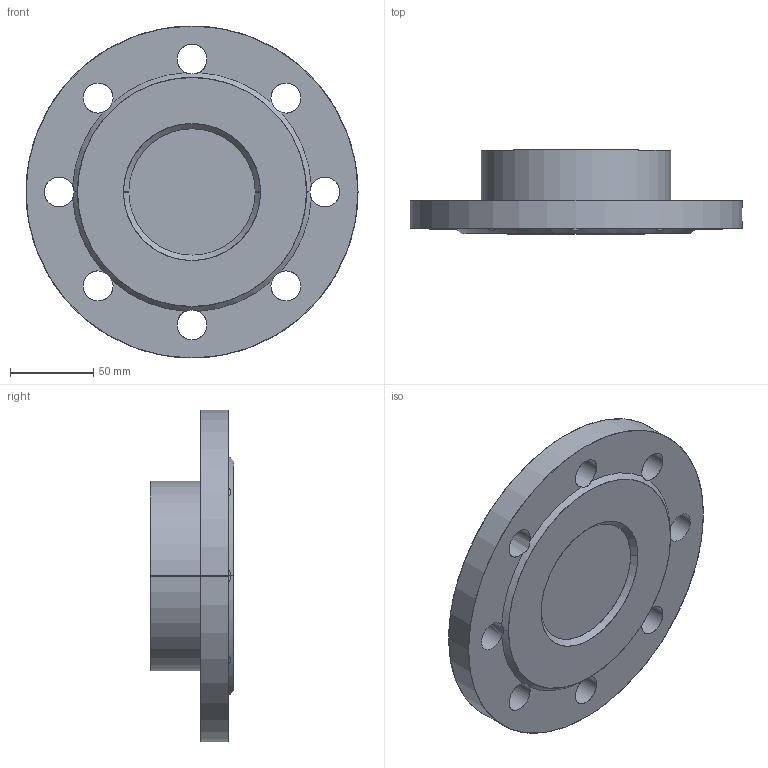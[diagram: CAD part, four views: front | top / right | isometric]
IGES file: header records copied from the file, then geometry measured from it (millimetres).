
Start section: SolidWorks IGES file using analytic representation for surfaces
Global section: file name: C:\Users\kprahl\Desktop\CobraMax Models for Website\CobraMax IGES Files\Base - DN80-PN16.IGS; native system: SolidWorks 2019; preprocessor: SolidWorks 2019; author: kprahl; date: 210412.165115; units: inch
Bounding box: 200 x 50.43 x 200 mm (x, y, z)
Surface area: 88955.8 mm2 (no closed solid volume)
Topology: 0 solids, 0 shells, 29 faces, 1156 edges, 1156 vertices
Faces by surface type: revolution 24, bspline 5
